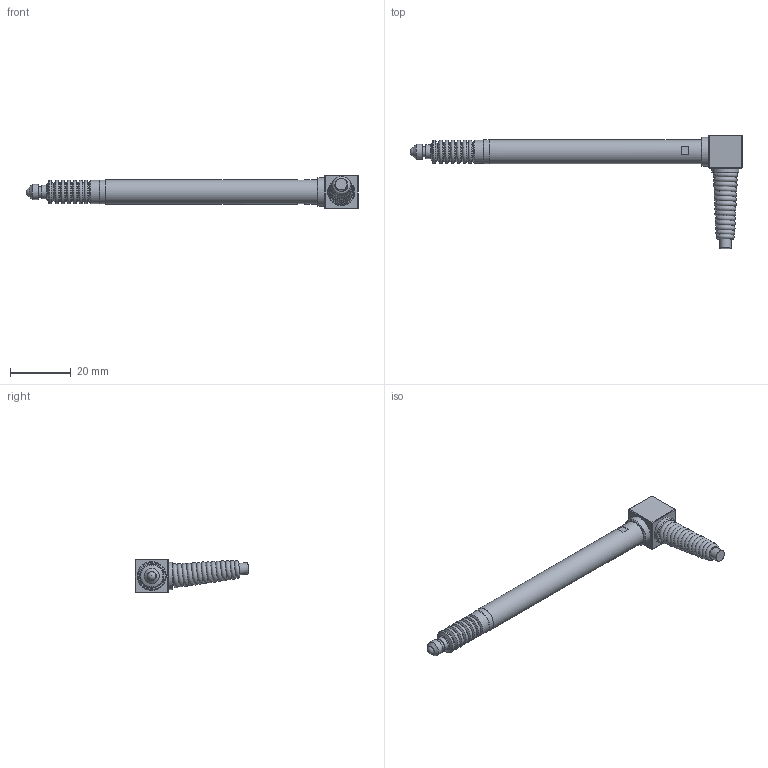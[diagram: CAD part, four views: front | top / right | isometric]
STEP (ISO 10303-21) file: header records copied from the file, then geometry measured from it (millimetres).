
FILE_DESCRIPTION(('STEP AP203'),'1');
FILE_NAME('IP-8L.stp','2023-04-04T02:48:36',(' '),(' '),'Spatial InterOp 3D',' ',' ');
FILE_SCHEMA(('CONFIG_CONTROL_DESIGN'));
Length unit declared in the file: millimetre
Products named in the file (9): IP-8L; 파트4; IP-8S-1; IP-8S rubber; 부품 B; RUBBER CAP; 파트1
Assembly tree (8 placements, depth 3):
  IP-8L
    파트4
    IP-8S-1
    IP-8S rubber
      부품 B
      RUBBER CAP
    파트1
    파트1
    IP-8S-1
Bounding box: 109.5 x 37.56 x 11 mm (x, y, z)
Volume: 6792 mm3; surface area: 5077.2 mm2
Topology: 7 solids, 7 shells, 127 faces, 235 edges, 133 vertices
Faces by surface type: plane 54, torus 30, cone 25, cylinder 17, sphere 1
Full cylindrical faces by diameter (mm): 2.5 x1, 3.4 x1, 3.8 x1, 4 x1, 4.1 x1, 4.5 x1, 5 x1, 5.5 x1, 6 x2, 6.8 x1, 7.7 x1, 7.9 x1, 8 x2, 9 x1, 9.5 x1
Entity records: 3068 total; most frequent: DIRECTION 518, CARTESIAN_POINT 409, ORIENTED_EDGE 300, AXIS2_PLACEMENT_3D 231, EDGE_LOOP 214, FACE_OUTER_BOUND 174, EDGE_CURVE 150, ADVANCED_FACE 127
